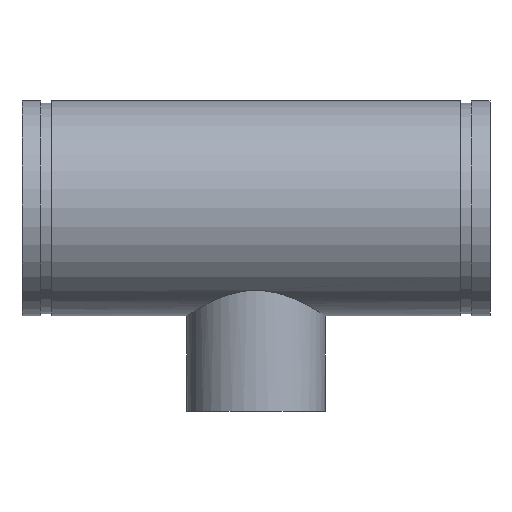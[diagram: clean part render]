
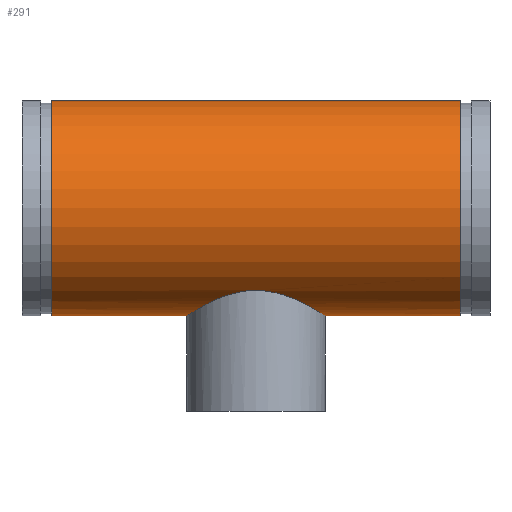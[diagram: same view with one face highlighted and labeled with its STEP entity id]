
A CAD part, top view. The second image highlights one B-rep face of the part: STEP entity #291.
In plain terms, the highlighted cylindrical face has radius 109.537 mm (diameter 219.075 mm), a full revolution.
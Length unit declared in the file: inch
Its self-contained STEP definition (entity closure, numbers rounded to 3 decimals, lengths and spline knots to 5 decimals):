
#45=B_SPLINE_CURVE_WITH_KNOTS('',3,(#511,#512,#513,#514,#515,#516,#517,
#518,#519,#520,#521,#522,#523,#524,#525,#526,#527,#528,#529,#530,#531,#532,
#533,#534,#535,#536,#537,#538,#539,#540,#541,#542,#543,#544,#545,#546,#547,
#548,#549,#550,#551,#552,#553,#554,#555,#556,#557,#558,#559,#560),
 .UNSPECIFIED.,.F.,.F.,(4,2,2,2,2,2,2,2,2,2,2,2,2,2,2,2,2,2,2,2,2,2,2,2,
4),(0.,1.38777,2.77554,4.16331,5.55108,
6.92598,8.30089,9.67579,11.0507,12.4256,
13.80051,15.17541,16.55032,17.93809,19.32586,
20.71363,22.1014,23.48917,24.87694,26.26471,
27.65247,29.02738,30.40228,31.77719,33.15209),
 .UNSPECIFIED.);
#46=B_SPLINE_CURVE_WITH_KNOTS('',3,(#561,#562,#563,#564,#565,#566,#567,
#568,#569,#570,#571,#572,#573,#574,#575,#576,#577,#578),.UNSPECIFIED.,.F.,
 .F.,(4,2,2,2,2,2,2,2,4),(33.15209,34.527,35.9019,
37.27681,38.65171,40.03948,41.42725,42.81502,
44.20279),.UNSPECIFIED.);
#51=LINE('',#508,#59);
#59=VECTOR('',#410,4.3125);
#67=CYLINDRICAL_SURFACE('',#338,4.3125);
#77=FACE_BOUND('',#108,.T.);
#88=FACE_OUTER_BOUND('',#107,.T.);
#107=EDGE_LOOP('',(#221,#222,#223,#224));
#108=EDGE_LOOP('',(#225,#226));
#121=CIRCLE('',#321,4.3125);
#132=CIRCLE('',#337,4.3125);
#141=VERTEX_POINT('',#476);
#152=VERTEX_POINT('',#505);
#153=VERTEX_POINT('',#509);
#154=VERTEX_POINT('',#510);
#165=EDGE_CURVE('',#141,#141,#121,.T.);
#178=EDGE_CURVE('',#152,#152,#132,.T.);
#179=EDGE_CURVE('',#152,#141,#51,.T.);
#180=EDGE_CURVE('',#153,#154,#45,.T.);
#181=EDGE_CURVE('',#154,#153,#46,.T.);
#221=ORIENTED_EDGE('',*,*,#178,.T.);
#222=ORIENTED_EDGE('',*,*,#179,.T.);
#223=ORIENTED_EDGE('',*,*,#165,.T.);
#224=ORIENTED_EDGE('',*,*,#179,.F.);
#225=ORIENTED_EDGE('',*,*,#180,.F.);
#226=ORIENTED_EDGE('',*,*,#181,.F.);
#291=ADVANCED_FACE('',(#88,#77),#67,.T.);
#321=AXIS2_PLACEMENT_3D('',#477,#372,#373);
#337=AXIS2_PLACEMENT_3D('',#506,#406,#407);
#338=AXIS2_PLACEMENT_3D('',#507,#408,#409);
#372=DIRECTION('center_axis',(-1.,0.,0.));
#373=DIRECTION('ref_axis',(0.,-1.,0.));
#406=DIRECTION('center_axis',(1.,0.,0.));
#407=DIRECTION('ref_axis',(0.,-1.,0.));
#408=DIRECTION('center_axis',(-1.,0.,0.));
#409=DIRECTION('ref_axis',(0.,-1.,0.));
#410=DIRECTION('',(1.,0.,0.));
#476=CARTESIAN_POINT('',(8.192,4.3125,0.));
#477=CARTESIAN_POINT('Origin',(8.192,0.,0.));
#505=CARTESIAN_POINT('',(-8.192,4.3125,0.));
#506=CARTESIAN_POINT('Origin',(-8.192,0.,0.));
#507=CARTESIAN_POINT('Origin',(9.38,0.,0.));
#508=CARTESIAN_POINT('',(9.38,4.3125,0.));
#509=CARTESIAN_POINT('',(0.,-3.29559,-2.7815));
#510=CARTESIAN_POINT('',(-2.7815,-4.3125,0.));
#511=CARTESIAN_POINT('Ctrl Pts',(0.,-3.29559,
-2.7815));
#512=CARTESIAN_POINT('Ctrl Pts',(0.18212,-3.29559,-2.7815));
#513=CARTESIAN_POINT('Ctrl Pts',(0.36747,-3.31115,-2.76336));
#514=CARTESIAN_POINT('Ctrl Pts',(0.73141,-3.371,-2.69003));
#515=CARTESIAN_POINT('Ctrl Pts',(0.91004,-3.41512,-2.63487));
#516=CARTESIAN_POINT('Ctrl Pts',(1.24976,-3.5209,-2.49175));
#517=CARTESIAN_POINT('Ctrl Pts',(1.41122,-3.5825,-2.40366));
#518=CARTESIAN_POINT('Ctrl Pts',(1.70921,-3.71001,-2.20176));
#519=CARTESIAN_POINT('Ctrl Pts',(1.84574,-3.77583,-2.08789));
#520=CARTESIAN_POINT('Ctrl Pts',(2.08677,-3.89935,-1.84686));
#521=CARTESIAN_POINT('Ctrl Pts',(2.20043,-3.96181,-1.71093));
#522=CARTESIAN_POINT('Ctrl Pts',(2.40273,-4.07764,-1.41283));
#523=CARTESIAN_POINT('Ctrl Pts',(2.49137,-4.13093,-1.25065));
#524=CARTESIAN_POINT('Ctrl Pts',(2.63519,-4.21923,-0.9093));
#525=CARTESIAN_POINT('Ctrl Pts',(2.69049,-4.25428,-0.72976));
#526=CARTESIAN_POINT('Ctrl Pts',(2.76366,-4.30092,-0.36533));
#527=CARTESIAN_POINT('Ctrl Pts',(2.7815,-4.3125,-0.18043));
#528=CARTESIAN_POINT('Ctrl Pts',(2.7815,-4.3125,0.18043));
#529=CARTESIAN_POINT('Ctrl Pts',(2.76366,-4.30092,0.36533));
#530=CARTESIAN_POINT('Ctrl Pts',(2.69049,-4.25428,0.72976));
#531=CARTESIAN_POINT('Ctrl Pts',(2.63519,-4.21923,0.9093));
#532=CARTESIAN_POINT('Ctrl Pts',(2.49137,-4.13093,1.25065));
#533=CARTESIAN_POINT('Ctrl Pts',(2.40273,-4.07764,1.41283));
#534=CARTESIAN_POINT('Ctrl Pts',(2.20043,-3.96181,1.71093));
#535=CARTESIAN_POINT('Ctrl Pts',(2.08677,-3.89935,1.84686));
#536=CARTESIAN_POINT('Ctrl Pts',(1.84574,-3.77583,2.08789));
#537=CARTESIAN_POINT('Ctrl Pts',(1.70921,-3.71001,2.20176));
#538=CARTESIAN_POINT('Ctrl Pts',(1.41122,-3.5825,2.40366));
#539=CARTESIAN_POINT('Ctrl Pts',(1.24976,-3.5209,2.49175));
#540=CARTESIAN_POINT('Ctrl Pts',(0.91004,-3.41512,2.63487));
#541=CARTESIAN_POINT('Ctrl Pts',(0.73141,-3.371,2.69003));
#542=CARTESIAN_POINT('Ctrl Pts',(0.36747,-3.31115,2.76336));
#543=CARTESIAN_POINT('Ctrl Pts',(0.18212,-3.29559,2.7815));
#544=CARTESIAN_POINT('Ctrl Pts',(-0.18212,-3.29559,2.7815));
#545=CARTESIAN_POINT('Ctrl Pts',(-0.36747,-3.31115,2.76336));
#546=CARTESIAN_POINT('Ctrl Pts',(-0.73141,-3.371,2.69003));
#547=CARTESIAN_POINT('Ctrl Pts',(-0.91004,-3.41512,2.63487));
#548=CARTESIAN_POINT('Ctrl Pts',(-1.24976,-3.5209,2.49175));
#549=CARTESIAN_POINT('Ctrl Pts',(-1.41122,-3.5825,2.40366));
#550=CARTESIAN_POINT('Ctrl Pts',(-1.70921,-3.71001,2.20176));
#551=CARTESIAN_POINT('Ctrl Pts',(-1.84574,-3.77583,2.08789));
#552=CARTESIAN_POINT('Ctrl Pts',(-2.08677,-3.89935,1.84686));
#553=CARTESIAN_POINT('Ctrl Pts',(-2.20043,-3.96181,1.71093));
#554=CARTESIAN_POINT('Ctrl Pts',(-2.40273,-4.07764,1.41283));
#555=CARTESIAN_POINT('Ctrl Pts',(-2.49137,-4.13093,1.25065));
#556=CARTESIAN_POINT('Ctrl Pts',(-2.63519,-4.21923,0.9093));
#557=CARTESIAN_POINT('Ctrl Pts',(-2.69049,-4.25428,0.72976));
#558=CARTESIAN_POINT('Ctrl Pts',(-2.76366,-4.30092,0.36533));
#559=CARTESIAN_POINT('Ctrl Pts',(-2.7815,-4.3125,0.18043));
#560=CARTESIAN_POINT('Ctrl Pts',(-2.7815,-4.3125,0.));
#561=CARTESIAN_POINT('Ctrl Pts',(-2.7815,-4.3125,0.));
#562=CARTESIAN_POINT('Ctrl Pts',(-2.7815,-4.3125,-0.18043));
#563=CARTESIAN_POINT('Ctrl Pts',(-2.76366,-4.30092,-0.36533));
#564=CARTESIAN_POINT('Ctrl Pts',(-2.69049,-4.25428,-0.72976));
#565=CARTESIAN_POINT('Ctrl Pts',(-2.63519,-4.21923,-0.9093));
#566=CARTESIAN_POINT('Ctrl Pts',(-2.49137,-4.13093,-1.25065));
#567=CARTESIAN_POINT('Ctrl Pts',(-2.40273,-4.07764,-1.41283));
#568=CARTESIAN_POINT('Ctrl Pts',(-2.20043,-3.96181,-1.71093));
#569=CARTESIAN_POINT('Ctrl Pts',(-2.08677,-3.89935,-1.84686));
#570=CARTESIAN_POINT('Ctrl Pts',(-1.84574,-3.77583,-2.08789));
#571=CARTESIAN_POINT('Ctrl Pts',(-1.70921,-3.71001,-2.20176));
#572=CARTESIAN_POINT('Ctrl Pts',(-1.41122,-3.5825,-2.40366));
#573=CARTESIAN_POINT('Ctrl Pts',(-1.24976,-3.5209,-2.49175));
#574=CARTESIAN_POINT('Ctrl Pts',(-0.91004,-3.41512,-2.63487));
#575=CARTESIAN_POINT('Ctrl Pts',(-0.73141,-3.371,-2.69003));
#576=CARTESIAN_POINT('Ctrl Pts',(-0.36747,-3.31115,-2.76336));
#577=CARTESIAN_POINT('Ctrl Pts',(-0.18212,-3.29559,-2.7815));
#578=CARTESIAN_POINT('Ctrl Pts',(0.,-3.29559,
-2.7815));
